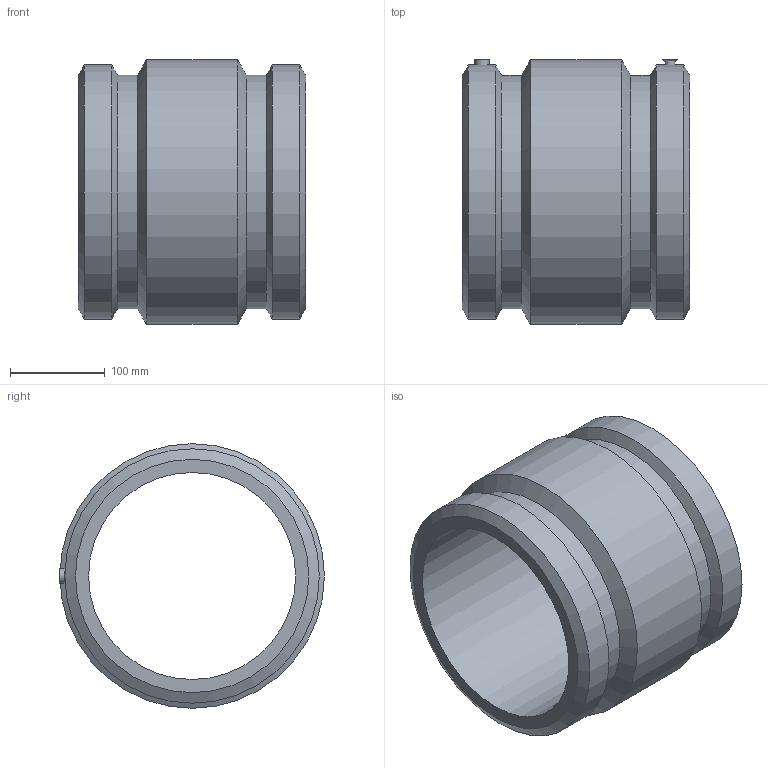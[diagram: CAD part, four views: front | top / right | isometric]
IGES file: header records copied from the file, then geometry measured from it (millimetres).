
Global section: file name: 5901D004080.ipt; native system: Autodesk Inventor 2019; preprocessor: unknown; author: KIM; date: 20210830.100925; units: inch
Bounding box: 240.03 x 279.65 x 279.4 mm (x, y, z)
Volume: 4492716.1 mm3; surface area: 425377.8 mm2
Topology: 1 solids, 2 shells, 28 faces, 56 edges, 36 vertices
Faces by surface type: cylinder 9, plane 8, cone 6, revolution 3, bspline 2
Full cylindrical faces by diameter (mm): 4 x2, 15 x2, 246.319 x2, 268.712 x2, 279.4 x1
